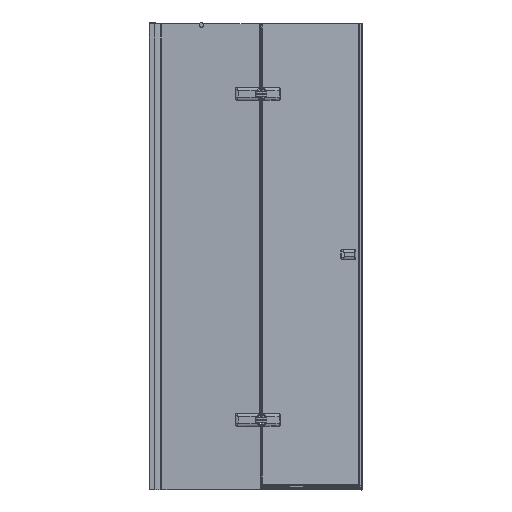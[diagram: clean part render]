
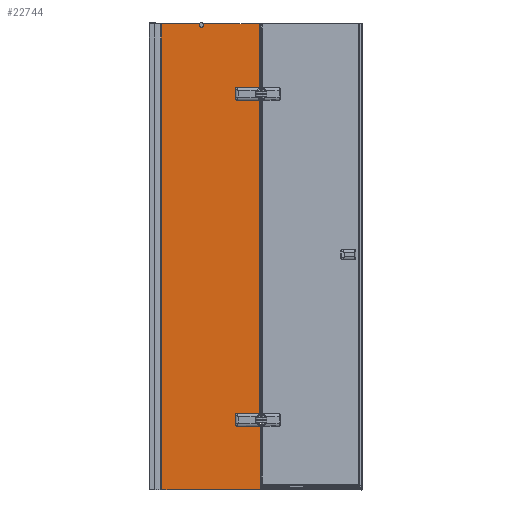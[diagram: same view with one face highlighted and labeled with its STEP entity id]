
A CAD part, front view. The second image highlights one B-rep face of the part: STEP entity #22744.
In plain terms, the highlighted planar face has unit normal (0, -1, 0).
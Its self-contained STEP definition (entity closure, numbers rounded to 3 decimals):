
#2790=FACE_OUTER_BOUND($,#4056,.T.);
#4056=EDGE_LOOP($,(#17969,#17970,#17971,#17972,#17973,#17974,#17975,#17976,
#17977,#17978,#17979,#17980,#17981,#17982,#17983,#17984,#17985,#17986,#17987,
#17988,#17989,#17990,#17991,#17992));
#4981=LINE($,#32530,#6984);
#5642=LINE($,#49411,#7645);
#5644=LINE($,#49420,#7647);
#5648=LINE($,#49432,#7651);
#5652=LINE($,#49443,#7655);
#5745=LINE($,#50112,#7748);
#5759=LINE($,#50156,#7762);
#5760=LINE($,#50160,#7763);
#5761=LINE($,#50164,#7764);
#5762=LINE($,#50167,#7765);
#5763=LINE($,#50171,#7766);
#5764=LINE($,#50173,#7767);
#5765=LINE($,#50175,#7768);
#5766=LINE($,#50177,#7769);
#5767=LINE($,#50178,#7770);
#6984=VECTOR($,#26058,239.386);
#7645=VECTOR($,#28261,2.);
#7647=VECTOR($,#28271,96.);
#7651=VECTOR($,#28283,42.);
#7655=VECTOR($,#28295,96.);
#7748=VECTOR($,#28630,1348.202);
#7762=VECTOR($,#28658,96.);
#7763=VECTOR($,#28661,42.);
#7764=VECTOR($,#28664,96.);
#7765=VECTOR($,#28667,274.101);
#7766=VECTOR($,#28670,164.716);
#7767=VECTOR($,#28671,2000.);
#7768=VECTOR($,#28672,426.963);
#7769=VECTOR($,#28673,281.);
#7770=VECTOR($,#28674,1.);
#9165=CIRCLE($,#24260,5.);
#9199=CIRCLE($,#24332,5.);
#9201=CIRCLE($,#24336,5.);
#9203=CIRCLE($,#24340,5.);
#9241=CIRCLE($,#24470,5.);
#9242=CIRCLE($,#24471,5.);
#9243=CIRCLE($,#24472,5.);
#9244=CIRCLE($,#24473,5.);
#9245=CIRCLE($,#24474,10.);
#9838=VERTEX_POINT($,#32527);
#9839=VERTEX_POINT($,#32529);
#10529=VERTEX_POINT($,#49052);
#10552=VERTEX_POINT($,#49101);
#10554=VERTEX_POINT($,#49104);
#10660=VERTEX_POINT($,#49409);
#10661=VERTEX_POINT($,#49413);
#10663=VERTEX_POINT($,#49419);
#10665=VERTEX_POINT($,#49425);
#10667=VERTEX_POINT($,#49431);
#10669=VERTEX_POINT($,#49437);
#10757=VERTEX_POINT($,#50110);
#10769=VERTEX_POINT($,#50153);
#10770=VERTEX_POINT($,#50155);
#10771=VERTEX_POINT($,#50157);
#10772=VERTEX_POINT($,#50159);
#10773=VERTEX_POINT($,#50161);
#10774=VERTEX_POINT($,#50163);
#10775=VERTEX_POINT($,#50165);
#10776=VERTEX_POINT($,#50168);
#10777=VERTEX_POINT($,#50170);
#10778=VERTEX_POINT($,#50172);
#10779=VERTEX_POINT($,#50174);
#10780=VERTEX_POINT($,#50176);
#12007=EDGE_CURVE($,#9839,#9838,#4981,.T.);
#13085=EDGE_CURVE($,#10554,#10552,#9165,.T.);
#13234=EDGE_CURVE($,#10529,#10660,#5642,.T.);
#13235=EDGE_CURVE($,#10660,#10661,#9199,.T.);
#13238=EDGE_CURVE($,#10661,#10663,#5644,.T.);
#13241=EDGE_CURVE($,#10663,#10665,#9201,.T.);
#13244=EDGE_CURVE($,#10665,#10667,#5648,.T.);
#13247=EDGE_CURVE($,#10667,#10669,#9203,.T.);
#13250=EDGE_CURVE($,#10669,#10554,#5652,.T.);
#13409=EDGE_CURVE($,#10552,#10757,#5745,.T.);
#13426=EDGE_CURVE($,#10757,#10769,#9241,.T.);
#13427=EDGE_CURVE($,#10769,#10770,#5759,.T.);
#13428=EDGE_CURVE($,#10770,#10771,#9242,.T.);
#13429=EDGE_CURVE($,#10771,#10772,#5760,.T.);
#13430=EDGE_CURVE($,#10772,#10773,#9243,.T.);
#13431=EDGE_CURVE($,#10773,#10774,#5761,.T.);
#13432=EDGE_CURVE($,#10774,#10775,#9244,.T.);
#13433=EDGE_CURVE($,#10775,#9839,#5762,.T.);
#13434=EDGE_CURVE($,#9838,#10776,#9245,.T.);
#13435=EDGE_CURVE($,#10776,#10777,#5763,.T.);
#13436=EDGE_CURVE($,#10777,#10778,#5764,.T.);
#13437=EDGE_CURVE($,#10779,#10778,#5765,.T.);
#13438=EDGE_CURVE($,#10780,#10779,#5766,.T.);
#13439=EDGE_CURVE($,#10780,#10529,#5767,.T.);
#17969=ORIENTED_EDGE($,*,*,#13234,.T.);
#17970=ORIENTED_EDGE($,*,*,#13235,.T.);
#17971=ORIENTED_EDGE($,*,*,#13238,.T.);
#17972=ORIENTED_EDGE($,*,*,#13241,.T.);
#17973=ORIENTED_EDGE($,*,*,#13244,.T.);
#17974=ORIENTED_EDGE($,*,*,#13247,.T.);
#17975=ORIENTED_EDGE($,*,*,#13250,.T.);
#17976=ORIENTED_EDGE($,*,*,#13085,.T.);
#17977=ORIENTED_EDGE($,*,*,#13409,.T.);
#17978=ORIENTED_EDGE($,*,*,#13426,.T.);
#17979=ORIENTED_EDGE($,*,*,#13427,.T.);
#17980=ORIENTED_EDGE($,*,*,#13428,.T.);
#17981=ORIENTED_EDGE($,*,*,#13429,.T.);
#17982=ORIENTED_EDGE($,*,*,#13430,.T.);
#17983=ORIENTED_EDGE($,*,*,#13431,.T.);
#17984=ORIENTED_EDGE($,*,*,#13432,.T.);
#17985=ORIENTED_EDGE($,*,*,#13433,.T.);
#17986=ORIENTED_EDGE($,*,*,#12007,.T.);
#17987=ORIENTED_EDGE($,*,*,#13434,.T.);
#17988=ORIENTED_EDGE($,*,*,#13435,.T.);
#17989=ORIENTED_EDGE($,*,*,#13436,.T.);
#17990=ORIENTED_EDGE($,*,*,#13437,.F.);
#17991=ORIENTED_EDGE($,*,*,#13438,.F.);
#17992=ORIENTED_EDGE($,*,*,#13439,.T.);
#21770=PLANE($,#24469);
#22744=ADVANCED_FACE($,(#2790),#21770,.T.);
#24260=AXIS2_PLACEMENT_3D($,#49105,#28012,#28013);
#24332=AXIS2_PLACEMENT_3D($,#49414,#28264,#28265);
#24336=AXIS2_PLACEMENT_3D($,#49426,#28276,#28277);
#24340=AXIS2_PLACEMENT_3D($,#49438,#28288,#28289);
#24469=AXIS2_PLACEMENT_3D($,#50152,#28654,#28655);
#24470=AXIS2_PLACEMENT_3D($,#50154,#28656,#28657);
#24471=AXIS2_PLACEMENT_3D($,#50158,#28659,#28660);
#24472=AXIS2_PLACEMENT_3D($,#50162,#28662,#28663);
#24473=AXIS2_PLACEMENT_3D($,#50166,#28665,#28666);
#24474=AXIS2_PLACEMENT_3D($,#50169,#28668,#28669);
#26058=DIRECTION($,(-1.,0.,0.));
#28012=DIRECTION('center_axis',(0.,1.,0.));
#28013=DIRECTION('ref_axis',(-1.,0.,0.));
#28261=DIRECTION($,(0.,0.,-1.));
#28264=DIRECTION('center_axis',(0.,1.,0.));
#28265=DIRECTION('ref_axis',(0.,0.,
1.));
#28271=DIRECTION($,(-1.,0.,0.));
#28276=DIRECTION('center_axis',(0.,1.,0.));
#28277=DIRECTION('ref_axis',(1.,0.,0.));
#28283=DIRECTION($,(0.,0.,1.));
#28288=DIRECTION('center_axis',(0.,1.,0.));
#28289=DIRECTION('ref_axis',(0.,0.,
-1.));
#28295=DIRECTION($,(1.,0.,0.));
#28630=DIRECTION($,(0.,0.,1.));
#28654=DIRECTION('center_axis',(0.,-1.,0.));
#28655=DIRECTION('ref_axis',(-1.,0.,0.));
#28656=DIRECTION('center_axis',(0.,1.,0.));
#28657=DIRECTION('ref_axis',(0.,0.,
1.));
#28658=DIRECTION($,(-1.,0.,0.));
#28659=DIRECTION('center_axis',(0.,1.,0.));
#28660=DIRECTION('ref_axis',(1.,0.,0.));
#28661=DIRECTION($,(0.,0.,1.));
#28662=DIRECTION('center_axis',(0.,1.,0.));
#28663=DIRECTION('ref_axis',(0.,0.,
-1.));
#28664=DIRECTION($,(1.,0.,0.));
#28665=DIRECTION('center_axis',(0.,1.,0.));
#28666=DIRECTION('ref_axis',(-1.,0.,0.));
#28667=DIRECTION($,(0.,0.,1.));
#28668=DIRECTION('center_axis',(0.,1.,0.));
#28669=DIRECTION('ref_axis',(-1.,0.,0.));
#28670=DIRECTION($,(-1.,0.,0.));
#28671=DIRECTION($,(0.,0.,-1.));
#28672=DIRECTION($,(-1.,0.,0.));
#28673=DIRECTION($,(0.,0.,-1.));
#28674=DIRECTION($,(-1.,0.,0.));
#32527=CARTESIAN_POINT('',(598.596,-154.925,1585.944));
#32529=CARTESIAN_POINT('',(837.982,-154.925,1585.944));
#32530=CARTESIAN_POINT($,(842.982,-154.925,1585.944));
#49052=CARTESIAN_POINT('',(841.982,-154.925,-133.056));
#49101=CARTESIAN_POINT('',(837.982,-154.925,-88.157));
#49104=CARTESIAN_POINT('',(836.982,-154.925,-88.056));
#49105=CARTESIAN_POINT('Origin',(836.982,-154.925,-93.056));
#49409=CARTESIAN_POINT('',(841.982,-154.925,-135.056));
#49411=CARTESIAN_POINT($,(841.982,-154.925,725.444));
#49413=CARTESIAN_POINT('',(836.982,-154.925,-140.056));
#49414=CARTESIAN_POINT('Origin',(836.982,-154.925,-135.056));
#49419=CARTESIAN_POINT('',(740.982,-154.925,-140.056));
#49420=CARTESIAN_POINT($,(791.982,-154.925,-140.056));
#49425=CARTESIAN_POINT('',(735.982,-154.925,-135.056));
#49426=CARTESIAN_POINT('Origin',(740.982,-154.925,-135.056));
#49431=CARTESIAN_POINT('',(735.982,-154.925,-93.056));
#49432=CARTESIAN_POINT($,(735.982,-154.925,746.444));
#49437=CARTESIAN_POINT('',(740.982,-154.925,-88.056));
#49438=CARTESIAN_POINT('Origin',(740.982,-154.925,-93.056));
#49443=CARTESIAN_POINT($,(839.982,-154.925,-88.056));
#50110=CARTESIAN_POINT('',(837.982,-154.925,1260.045));
#50112=CARTESIAN_POINT($,(837.982,-154.925,740.944));
#50152=CARTESIAN_POINT('Origin',(842.982,-154.925,1585.944));
#50153=CARTESIAN_POINT('',(836.982,-154.925,1259.944));
#50154=CARTESIAN_POINT('Origin',(836.982,-154.925,1264.944));
#50155=CARTESIAN_POINT('',(740.982,-154.925,1259.944));
#50156=CARTESIAN_POINT($,(791.982,-154.925,1259.944));
#50157=CARTESIAN_POINT('',(735.982,-154.925,1264.944));
#50158=CARTESIAN_POINT('Origin',(740.982,-154.925,1264.944));
#50159=CARTESIAN_POINT('',(735.982,-154.925,1306.944));
#50160=CARTESIAN_POINT($,(735.982,-154.925,1446.444));
#50161=CARTESIAN_POINT('',(740.982,-154.925,1311.944));
#50162=CARTESIAN_POINT('Origin',(740.982,-154.925,1306.944));
#50163=CARTESIAN_POINT('',(836.982,-154.925,1311.944));
#50164=CARTESIAN_POINT($,(839.982,-154.925,1311.944));
#50165=CARTESIAN_POINT('',(837.982,-154.925,1311.843));
#50166=CARTESIAN_POINT('Origin',(836.982,-154.925,1306.944));
#50167=CARTESIAN_POINT($,(837.982,-154.925,1585.944));
#50168=CARTESIAN_POINT('',(580.735,-154.925,1585.944));
#50169=CARTESIAN_POINT('Origin',(589.666,-154.925,1581.444));
#50170=CARTESIAN_POINT('',(416.019,-154.925,1585.944));
#50171=CARTESIAN_POINT($,(842.982,-154.925,1585.944));
#50172=CARTESIAN_POINT('',(416.019,-154.925,-414.056));
#50173=CARTESIAN_POINT($,(416.019,-154.925,585.944));
#50174=CARTESIAN_POINT('',(842.982,-154.925,-414.056));
#50175=CARTESIAN_POINT($,(842.982,-154.925,-414.056));
#50176=CARTESIAN_POINT('',(842.982,-154.925,-133.056));
#50177=CARTESIAN_POINT($,(842.982,-154.925,1585.944));
#50178=CARTESIAN_POINT($,(842.982,-154.925,-133.056));
